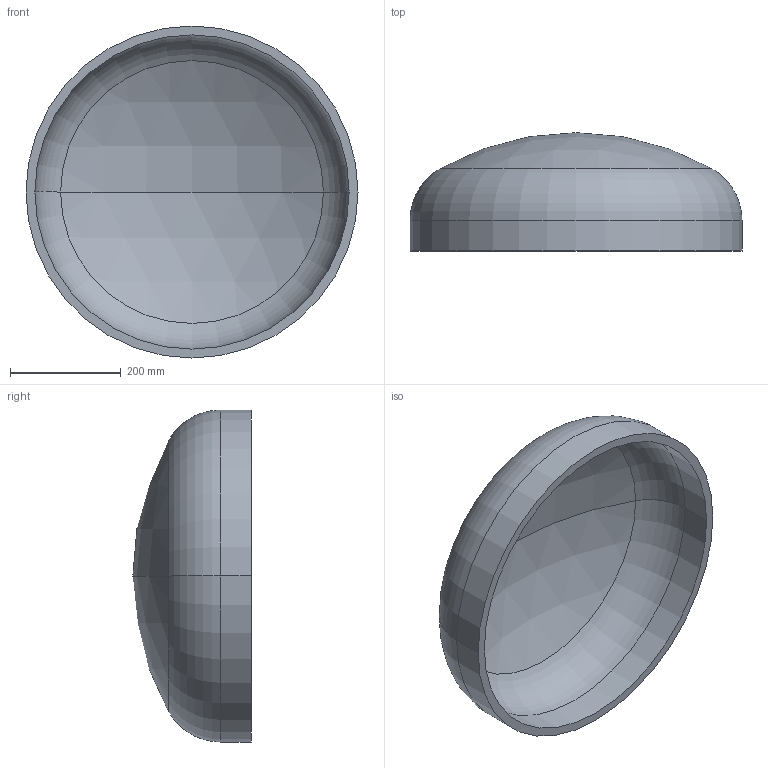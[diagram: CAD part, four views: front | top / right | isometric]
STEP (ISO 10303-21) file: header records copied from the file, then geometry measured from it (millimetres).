
FILE_DESCRIPTION (( 'STEP AP203' ), '1' );
FILE_NAME ('DIN 28013 Korbbogenform_-_Boden DIN 28013 - 600 x 55 - I - s=16.step', '2016-07-01T07:57:52', ( '' ), ( '' ), 'SwSTEP 2.0', 'SolidWorks 2013', '' );
FILE_SCHEMA (( 'CONFIG_CONTROL_DESIGN' ));
Length unit declared in the file: millimetre
Products named in the file (1): DIN 28013 Korbbogenform_-_Boden DIN 28013 - 600 x 55 - I - s=16
Bounding box: 600 x 213.84 x 600 mm (x, y, z)
Volume: 7659732.7 mm3; surface area: 987357.5 mm2
Topology: 1 solids, 1 shells, 13 faces, 24 edges, 14 vertices
Faces by surface type: torus 4, cylinder 4, sphere 4, plane 1
Entity records: 407 total; most frequent: DIRECTION 72, CARTESIAN_POINT 52, ORIENTED_EDGE 48, AXIS2_PLACEMENT_3D 34, EDGE_CURVE 24, CIRCLE 20, EDGE_LOOP 14, VERTEX_POINT 14
